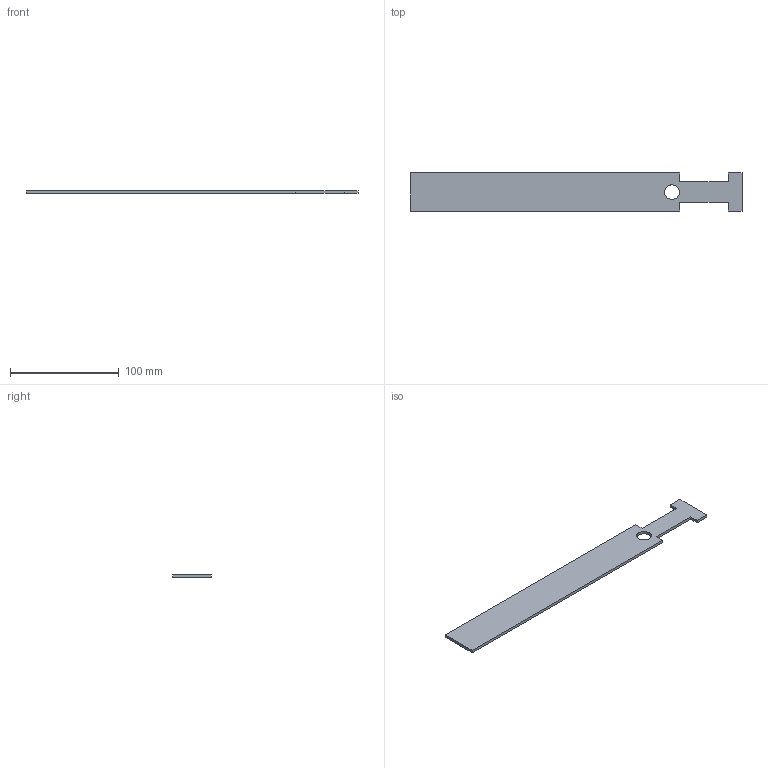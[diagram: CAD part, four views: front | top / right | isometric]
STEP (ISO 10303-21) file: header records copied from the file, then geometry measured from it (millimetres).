
FILE_DESCRIPTION(('TurboCAD Mac Pro'),'Build 980');
FILE_NAME('P1657A.stp',' ',(''),(''),'ACIS Interop','IMSI','TurboCAD Mac Pro BY IMSI, INCORPORATED');
FILE_SCHEMA(('automotive_design'));
Length unit declared in the file: inch
Products named in the file (2): 1; 2
Bounding box: 304.8 x 34.92 x 2.67 mm (x, y, z)
Volume: 26127.5 mm3; surface area: 21603 mm2
Topology: 1 solids, 1 shells, 18 faces, 48 edges, 32 vertices
Faces by surface type: plane 14, bspline 4
Entity records: 778 total; most frequent: CARTESIAN_POINT 153, ORIENTED_EDGE 96, DIRECTION 73, EDGE_CURVE 48, LINE 41, VECTOR 41, VERTEX_POINT 32, STYLED_ITEM 20
